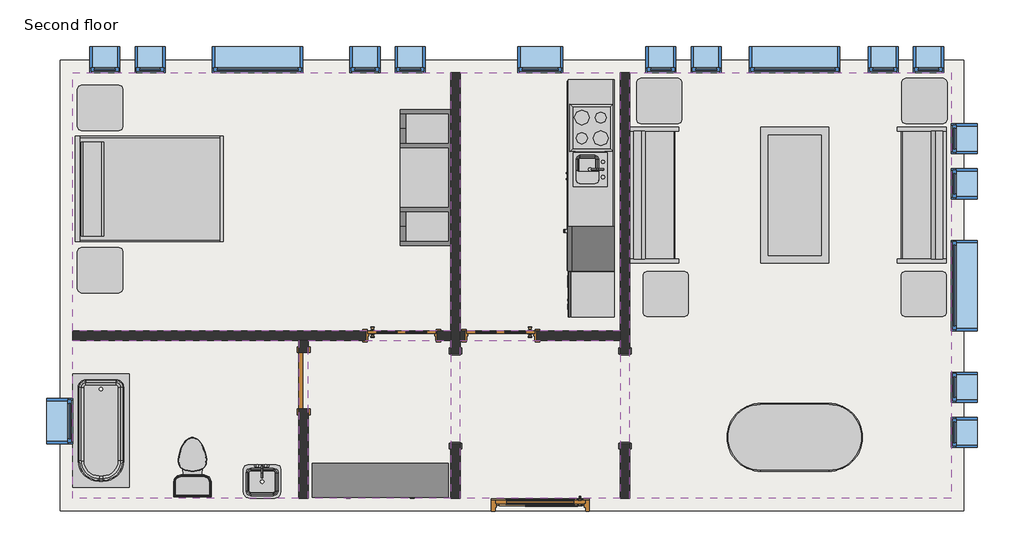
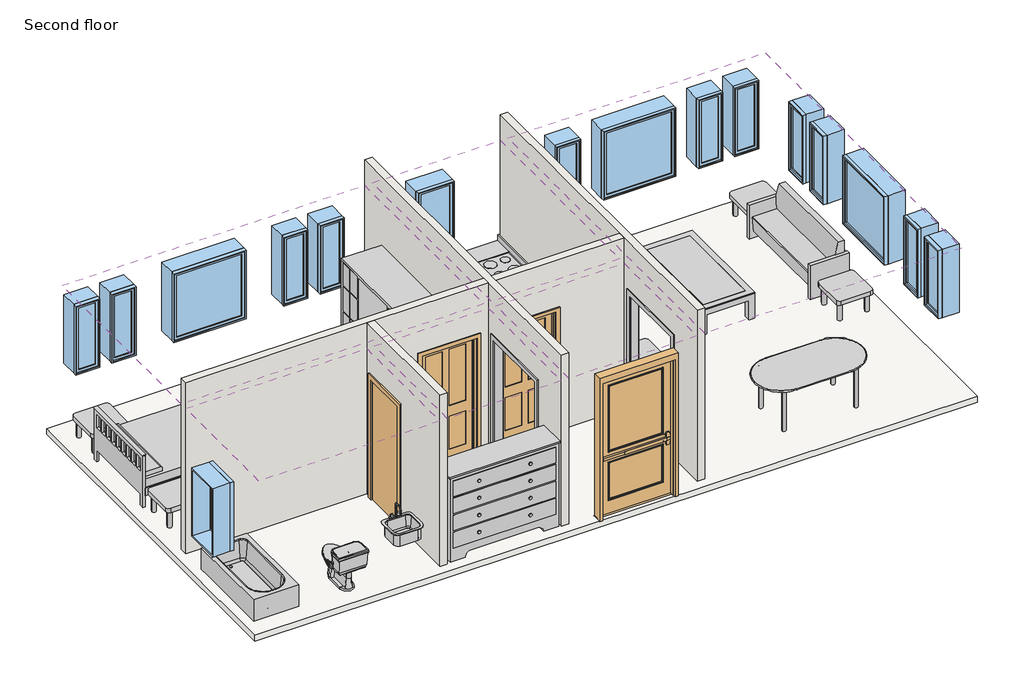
# One storey, incomplete: 17 windows, 14 furniture elements, 6 coverings, 6 proxies, 4 doors, 4 flow terminals, 4 walls, 1 slab.
"""IFC4 building model written with IfcOpenShell, lengths in millimetres."""

from ifc_helpers import new_model, si_unit, frame, origin, place, context, project, spatial, polyline, outline, extrude, faceted_brep, transform, mapped, element, save
from components import proxy_a6faaae8, proxy_45b28599, proxy_2d72b8be, proxy_f44482cc, proxy_d58c73d0, proxy_c523a7b7, door_734823c0, door_3a280f7b, door_48307b55, door_4d6c7550, flow_terminal_871c2e40, flow_terminal_62a433f7, toilet_domestic_3d_toilet_domestic_3d_f7549cf7, toilet_domestic_3d_toilet_domestic_3d_183bbd19, tub_rectangular_3d_tub_rectangular_3d_c56944d8, furniture_096e7f55, furniture_b11095bc, furniture_7c473f12, furniture_cf0b6580, furniture_a4ffab56, furniture_4aa42607, furniture_cd93a443, furniture_2c34a4f9, furniture_3a588284, furniture_1befe2a2, window_da97879f, window_d61ef850, window_60baf983, window_6eb97611

model = new_model("IFC4")

# Units and contexts
model_context = context("Model", 3, world=origin())
ifc_project = project(units=[si_unit("LENGTHUNIT", "METRE", prefix="MILLI")], contexts=[model_context])

# Site, building, storey
site = spatial("IfcSite", under=ifc_project)
building = spatial("IfcBuilding", under=site)
storey = spatial("IfcBuildingStorey", under=building, Name="Second floor", Elevation=3048.0)

# Proxies
placement = place(None, origin())
proxy_shape = proxy_a6faaae8(model_context)
element("IfcBuildingElementProxy", 1, Name="Cook Top-4 Unit2 : 22\" x 20\"", ObjectType="Cook Top-4 Unit2 : 22\" x 20\"", at=placement, inside=storey, context=model_context, shape_type="MappedRepresentation", body=[
    mapped(proxy_shape, transform((-9031.7273953, 6866.0370415, 3049.7), x_axis=(0.0, 1.0, 0.0), y_axis=(-1.0, 0.0, 0.0), z_axis=(0.0, 0.0, 1.0))),
])
proxy_2_shape = proxy_45b28599(model_context)
element("IfcBuildingElementProxy", 2, Name="Dishwasher : 24\" x 24\" x 34\"", ObjectType="Dishwasher : 24\" x 24\" x 34\"", at=placement, inside=storey, context=model_context, shape_type="MappedRepresentation", body=[
    mapped(proxy_2_shape, transform((-9291.8269601, 5000.45451, 3048.0), x_axis=(0.0, -1.0, 0.0), y_axis=(1.0, 0.0, 0.0), z_axis=(0.0, 0.0, 1.0))),
])
proxy_3_shape = proxy_2d72b8be(model_context)
element("IfcBuildingElementProxy", 3, Name="Kitchenette - Medium : 8'6\"", ObjectType="Kitchenette - Medium : 8'6\"", at=placement, inside=storey, context=model_context, shape_type="MappedRepresentation", body=[
    mapped(proxy_3_shape, transform((-8720.5773953, 6237.0747464, 3048.0), x_axis=(0.0, -1.0, 0.0), y_axis=(1.0, 0.0, 0.0), z_axis=(0.0, 0.0, 1.0))),
])
proxy_4_shape = proxy_f44482cc(model_context)
element("IfcBuildingElementProxy", 4, Name="Passage Opening-Cased : 48\" x 84\"", ObjectType="Passage Opening-Cased : 48\" x 84\"", at=placement, inside=storey, context=model_context, shape_type="MappedRepresentation", body=[
    mapped(proxy_4_shape, transform((-8577.1844712, 3224.0452741, 3048.0), x_axis=(0.0, 1.0, 0.0), y_axis=(-1.0, 0.0, 0.0), z_axis=(0.0, 0.0, 1.0))),
])
proxy_5_shape = proxy_d58c73d0(model_context)
element("IfcBuildingElementProxy", 5, Name="Passage Opening-Cased : 48\" x 84\"", ObjectType="Passage Opening-Cased : 48\" x 84\"", at=placement, inside=storey, context=model_context, shape_type="MappedRepresentation", body=[
    mapped(proxy_5_shape, transform((-10863.1844712, 3224.0452741, 3048.0), x_axis=(0.0, 1.0, 0.0), y_axis=(-1.0, 0.0, 0.0), z_axis=(0.0, 0.0, 1.0))),
])
proxy_6_shape = proxy_c523a7b7(model_context)
element("IfcBuildingElementProxy", 6, Name="Refrigerator : 24\" x 25\" LH", ObjectType="Refrigerator : 24\" x 25\" LH", at=placement, inside=storey, context=model_context, shape_type="MappedRepresentation", body=[
    mapped(proxy_6_shape, transform((-9020.2263668, 5234.0870415, 3048.0), x_axis=(0.0, -1.0, 0.0), y_axis=(1.0, 0.0, 0.0), z_axis=(0.0, 0.0, 1.0))),
])

# Coverings
element("IfcCovering", 7, ObjectType="GWB on Mtl. Stud", at=placement, inside=storey, context=model_context, shape_type="SweptSolid", body=[
    extrude(outline(polyline([(-16020.9719712, 7611.6441174), (-10926.6844712, 7611.6441174), (-10926.6844712, 4128.6691174), (-16020.9719712, 4128.6691174), (-16020.9719712, 7611.6441174)])), frame((0.0, 0.0, 5638.8), z_axis=(0.0, 0.0, 1.0), x_axis=(1.0, 0.0, 0.0)), (0.0, 0.0, 1.0), 107.95),
])
element("IfcCovering", 8, ObjectType="GWB on Mtl. Stud", at=placement, inside=storey, context=model_context, shape_type="SweptSolid", body=[
    extrude(outline(polyline([(-10799.6844712, 4128.6691174), (-10799.6844712, 7611.6441174), (-8640.6844712, 7611.6441174), (-8640.6844712, 4128.6691174), (-10799.6844712, 4128.6691174)])), frame((0.0, 0.0, 5638.8), z_axis=(0.0, 0.0, 1.0), x_axis=(1.0, 0.0, 0.0)), (0.0, 0.0, 1.0), 107.95),
])
element("IfcCovering", 9, ObjectType="GWB on Mtl. Stud", at=placement, inside=storey, context=model_context, shape_type="SweptSolid", body=[
    extrude(outline(polyline([(-8513.6844712, 1868.0691174), (-8513.6844712, 7611.6441174), (-4181.3969712, 7611.6441174), (-4181.3969712, 1868.0691174), (-8513.6844712, 1868.0691174)])), frame((0.0, 0.0, 5638.8), z_axis=(0.0, 0.0, 1.0), x_axis=(1.0, 0.0, 0.0)), (0.0, 0.0, 1.0), 107.95),
])
element("IfcCovering", 10, ObjectType="GWB on Mtl. Stud", at=placement, inside=storey, context=model_context, shape_type="SweptSolid", body=[
    extrude(outline(polyline([(-8640.6844712, 1868.0691174), (-10799.6844712, 1868.0691174), (-10799.6844712, 4001.6691174), (-8640.6844712, 4001.6691174), (-8640.6844712, 1868.0691174)])), frame((0.0, 0.0, 5638.8), z_axis=(0.0, 0.0, 1.0), x_axis=(1.0, 0.0, 0.0)), (0.0, 0.0, 1.0), 107.95),
])
element("IfcCovering", 11, ObjectType="GWB on Mtl. Stud", at=placement, inside=storey, context=model_context, shape_type="SweptSolid", body=[
    extrude(outline(polyline([(-10926.6844712, 1868.0691174), (-12845.9719712, 1868.0691174), (-12845.9719712, 4001.6691174), (-10926.6844712, 4001.6691174), (-10926.6844712, 1868.0691174)])), frame((0.0, 0.0, 5638.8), z_axis=(0.0, 0.0, 1.0), x_axis=(1.0, 0.0, 0.0)), (0.0, 0.0, 1.0), 107.95),
])
element("IfcCovering", 12, ObjectType="GWB on Mtl. Stud", at=placement, inside=storey, context=model_context, shape_type="SweptSolid", body=[
    extrude(outline(polyline([(-12972.9719712, 4001.6691174), (-12972.9719712, 1868.0691174), (-16020.9719712, 1868.0691174), (-16020.9719712, 4001.6691174), (-12972.9719712, 4001.6691174)])), frame((0.0, 0.0, 5638.8), z_axis=(0.0, 0.0, 1.0), x_axis=(1.0, 0.0, 0.0)), (0.0, 0.0, 1.0), 107.95),
])

# Doors
door_shape = door_734823c0(model_context)
element("IfcDoor", 13, ObjectType="Door-Exterior-Single-Two_Lite : 48\" x 96\"", at=placement, inside=storey, context=model_context, shape_type="MappedRepresentation", body=[
    mapped(door_shape, transform((-9720.1844712, 1685.5066174, 3048.0), x_axis=(-1.0, 0.0, 0.0), y_axis=(0.0, -1.0, 0.0), z_axis=(0.0, 0.0, 1.0))),
])
door_2_shape = door_3a280f7b(model_context)
element("IfcDoor", 14, ObjectType="Door-Interior-Single-4_Panel-Wood : 36\" x 84\"", at=placement, inside=storey, context=model_context, shape_type="MappedRepresentation", body=[
    mapped(door_2_shape, transform((-10253.5844712, 4068.3441174, 3048.0), x_axis=(-1.0, 0.0, 0.0), y_axis=(0.0, -1.0, 0.0), z_axis=(0.0, 0.0, 1.0))),
])
door_3_shape = door_48307b55(model_context)
element("IfcDoor", 15, ObjectType="Door-Interior-Single-4_Panel-Wood : 36\" x 84\"", at=placement, inside=storey, context=model_context, shape_type="MappedRepresentation", body=[
    mapped(door_3_shape, transform((-11588.6719712, 4068.3441174, 3048.0), x_axis=(1.0, 0.0, 0.0), y_axis=(0.0, 1.0, 0.0), z_axis=(0.0, 0.0, 1.0))),
])
door_4_shape = door_4d6c7550(model_context)
element("IfcDoor", 16, ObjectType="Single-Flush : 30\" x 84\"", at=placement, inside=storey, context=model_context, shape_type="MappedRepresentation", body=[
    mapped(door_4_shape, transform((-12909.4719712, 3455.5691174, 3048.0), x_axis=(0.0, 1.0, 0.0), y_axis=(-1.0, 0.0, 0.0), z_axis=(0.0, 0.0, 1.0))),
])

# Flow terminals
flow_terminal_shape = flow_terminal_871c2e40(model_context)
element("IfcFlowTerminal", 17, ObjectType="Sink Kitchen-Island : 18\" x 18\"", at=placement, inside=storey, context=model_context, shape_type="MappedRepresentation", body=[
    mapped(flow_terminal_shape, transform((-9048.7582992, 6321.1277059, 3035.3), x_axis=(0.0, -1.0, 0.0), y_axis=(1.0, 0.0, 0.0), z_axis=(0.0, 0.0, 1.0))),
])
flow_terminal_2_shape = flow_terminal_62a433f7(model_context)
element("IfcFlowTerminal", 18, ObjectType="Sink Vanity-Square : 20\" x 18\"", at=placement, inside=storey, context=model_context, shape_type="MappedRepresentation", body=[
    mapped(flow_terminal_2_shape, transform((-13483.9612118, 2145.1237163, 3048.0), x_axis=(1.0, 0.0, 0.0), y_axis=(0.0, 1.0, 0.0), z_axis=(0.0, 0.0, 1.0))),
])
toilet_domestic_3d_toilet_domestic_3d_shape = toilet_domestic_3d_toilet_domestic_3d_f7549cf7(model_context)
toilet_domestic_3d_toilet_domestic_3d_2_shape = toilet_domestic_3d_toilet_domestic_3d_183bbd19(model_context)
element("IfcFlowTerminal", 19, ObjectType="Toilet-Domestic-3D : Toilet-Domestic-3D", at=placement, inside=storey, context=model_context, shape_type="MappedRepresentation", body=[
    mapped(toilet_domestic_3d_toilet_domestic_3d_shape, transform((-14408.0719712, 2388.7691174, 3048.0), x_axis=(-1.0, 0.0, 0.0), y_axis=(0.0, -1.0, 0.0), z_axis=(0.0, 0.0, 1.0))),
    mapped(toilet_domestic_3d_toilet_domestic_3d_2_shape, transform((-14408.0719712, 2388.7691174, 3048.0), x_axis=(-1.0, 0.0, 0.0), y_axis=(0.0, -1.0, 0.0), z_axis=(0.0, 0.0, 1.0))),
])
tub_rectangular_3d_tub_rectangular_3d_shape = tub_rectangular_3d_tub_rectangular_3d_c56944d8(model_context)
element("IfcFlowTerminal", 20, ObjectType="Tub-Rectangular-3D : Tub-Rectangular-3D", at=placement, inside=storey, context=model_context, shape_type="MappedRepresentation", body=[
    mapped(tub_rectangular_3d_tub_rectangular_3d_shape, transform((-16197.1844712, 2435.4536487, 3048.0), x_axis=(0.0, -1.0, 0.0), y_axis=(1.0, 0.0, 0.0), z_axis=(0.0, 0.0, 1.0))),
])

# Furniture
furniture_shape = furniture_096e7f55(model_context)
element("IfcFurniture", 21, ObjectType="Bed-Shaker : Double 56\" x 78\"", at=placement, inside=storey, context=model_context, shape_type="MappedRepresentation", body=[
    mapped(furniture_shape, transform((-15975.8112951, 6061.1004868, 3048.0), x_axis=(0.0, 1.0, 0.0), y_axis=(-1.0, 0.0, 0.0), z_axis=(0.0, 0.0, 1.0))),
])
furniture_2_shape = furniture_b11095bc(model_context)
element("IfcFurniture", 22, ObjectType="Counter Top w Sink Hole : 24\" Depth", at=placement, inside=storey, context=model_context, shape_type="MappedRepresentation", body=[
    mapped(furniture_2_shape, transform((-8720.5773953, 6313.2747464, 3035.3), x_axis=(0.0, -1.0, 0.0), y_axis=(1.0, 0.0, 0.0), z_axis=(0.0, 0.0, 1.0))),
])
furniture_3_shape = furniture_7c473f12(model_context)
element("IfcFurniture", 23, ObjectType="Dresser : 72\" x 60\" x 18\"", at=placement, inside=storey, context=model_context, shape_type="MappedRepresentation", body=[
    mapped(furniture_3_shape, transform((-11608.4037114, 2478.8820715, 3048.0), x_axis=(1.0, 0.0, 0.0), y_axis=(0.0, 1.0, 0.0), z_axis=(0.0, 0.0, 1.0))),
])
furniture_4_shape = furniture_cf0b6580(model_context)
element("IfcFurniture", 24, ObjectType="Entertainment Center : 72\" x 72\" x 24\"", at=placement, inside=storey, context=model_context, shape_type="MappedRepresentation", body=[
    mapped(furniture_4_shape, transform((-10825.0844712, 6196.8069525, 3048.0), x_axis=(0.0, -1.0, 0.0), y_axis=(1.0, 0.0, 0.0), z_axis=(0.0, 0.0, 1.0))),
])
furniture_5_shape = furniture_a4ffab56(model_context)
element("IfcFurniture", 25, ObjectType="Sofa : 72\"", at=placement, inside=storey, context=model_context, shape_type="MappedRepresentation", body=[
    mapped(furniture_5_shape, transform((-8037.3303728, 5888.6861256, 3048.0), x_axis=(0.0, 1.0, 0.0), y_axis=(-1.0, 0.0, 0.0), z_axis=(0.0, 0.0, 1.0))),
])
furniture_6_shape = furniture_4aa42607(model_context)
element("IfcFurniture", 26, ObjectType="Sofa : 72\"", at=placement, inside=storey, context=model_context, shape_type="MappedRepresentation", body=[
    mapped(furniture_6_shape, transform((-4722.8385696, 5888.6861256, 3048.0), x_axis=(0.0, 1.0, 0.0), y_axis=(-1.0, 0.0, 0.0), z_axis=(0.0, 0.0, 1.0))),
])
furniture_7_shape = furniture_cd93a443(model_context)
element("IfcFurniture", 27, ObjectType="Table-Coffee : 36\" x 72\" x 18\"", at=placement, inside=storey, context=model_context, shape_type="MappedRepresentation", body=[
    mapped(furniture_7_shape, transform((-6386.395549, 5977.3223841, 3048.0), x_axis=(0.0, -1.0, 0.0), y_axis=(1.0, 0.0, 0.0), z_axis=(0.0, 0.0, 1.0))),
])
furniture_8_shape = furniture_2c34a4f9(model_context)
element("IfcFurniture", 28, ObjectType="Table-Dining Oval : 36\" x 72\"", at=placement, inside=storey, context=model_context, shape_type="MappedRepresentation", body=[
    mapped(furniture_8_shape, transform((-5889.3647991, 3051.6674781, 3048.0), x_axis=(1.0, 0.0, 0.0), y_axis=(0.0, 1.0, 0.0), z_axis=(0.0, 0.0, 1.0))),
])
furniture_9_shape = furniture_3a588284(model_context)
element("IfcFurniture", 29, ObjectType="Table-End : 24\" x 24\"", at=placement, inside=storey, context=model_context, shape_type="MappedRepresentation", body=[
    mapped(furniture_9_shape, transform((-8424.0054177, 7076.6566174, 3048.0), x_axis=(1.0, 0.0, 0.0), y_axis=(0.0, 1.0, 0.0), z_axis=(0.0, 0.0, 1.0))),
])
element("IfcFurniture", 30, ObjectType="Table-End : 24\" x 24\"", at=placement, inside=storey, context=model_context, shape_type="MappedRepresentation", body=[
    mapped(furniture_9_shape, transform((-8338.5433691, 4473.0178252, 3048.0), x_axis=(1.0, 0.0, 0.0), y_axis=(0.0, 1.0, 0.0), z_axis=(0.0, 0.0, 1.0))),
])
element("IfcFurniture", 31, ObjectType="Table-End : 24\" x 24\"", at=placement, inside=storey, context=model_context, shape_type="MappedRepresentation", body=[
    mapped(furniture_9_shape, transform((-15961.2056015, 4795.4191174, 3048.0), x_axis=(1.0, 0.0, 0.0), y_axis=(0.0, 1.0, 0.0), z_axis=(0.0, 0.0, 1.0))),
])
furniture_10_shape = furniture_1befe2a2(model_context)
element("IfcFurniture", 32, ObjectType="Table-End : 24\" x 24\"", at=placement, inside=storey, context=model_context, shape_type="MappedRepresentation", body=[
    mapped(furniture_10_shape, transform((-4234.5635246, 7076.6566174, 3048.0), x_axis=(-1.0, 0.0, 0.0), y_axis=(0.0, -1.0, 0.0), z_axis=(0.0, 0.0, 1.0))),
])
element("IfcFurniture", 33, ObjectType="Table-End : 24\" x 24\"", at=placement, inside=storey, context=model_context, shape_type="MappedRepresentation", body=[
    mapped(furniture_10_shape, transform((-4243.8255733, 4473.0178252, 3048.0), x_axis=(-1.0, 0.0, 0.0), y_axis=(0.0, -1.0, 0.0), z_axis=(0.0, 0.0, 1.0))),
])
element("IfcFurniture", 34, ObjectType="Table-End : 24\" x 24\"", at=placement, inside=storey, context=model_context, shape_type="MappedRepresentation", body=[
    mapped(furniture_10_shape, transform((-15961.2056015, 7288.6818561, 3048.0), x_axis=(1.0, 0.0, 0.0), y_axis=(0.0, 1.0, 0.0), z_axis=(0.0, 0.0, 1.0))),
])

# Slab
element("IfcSlab", 35, ObjectType="LW Concrete on Metal Deck", at=placement, inside=storey, context=model_context, shape_type="SweptSolid", body=[
    extrude(outline(polyline([(-4016.2969712, 7776.7441174), (-4016.2969712, 1702.9691174), (-16186.0719712, 1702.9691174), (-16186.0719712, 7776.7441174), (-4016.2969712, 7776.7441174)])), frame((0.0, 0.0, 2943.225), z_axis=(0.0, 0.0, 1.0), x_axis=(1.0, 0.0, 0.0)), (0.0, 0.0, 1.0), 104.775),
])

# Walls
element("IfcWall", 36, ObjectType="Interior - 5\" Partition (2-hr)", at=placement, inside=storey, context=model_context, shape_type="Brep", body=[
    faceted_brep([(-8640.6844712, 7611.6441174, 3048.0), (-8640.6844712, 4128.6691174, 3048.0), (-8640.6844712, 4001.6691174, 3048.0), (-8640.6844712, 3825.4566174, 3048.0), (-8640.6844712, 3825.4566174, 5181.6), (-8640.6844712, 2606.2566174, 5181.6), (-8640.6844712, 2606.2566174, 3048.0), (-8640.6844712, 1868.0691174, 3048.0), (-8640.6844712, 1868.0691174, 6096.0), (-8640.6844712, 4001.6691174, 6096.0), (-8640.6844712, 4128.6691174, 6096.0), (-8640.6844712, 7611.6441174, 6096.0), (-8513.6844712, 3825.4566174, 5181.6), (-8513.6844712, 3825.4566174, 3048.0), (-8513.6844712, 7611.6441174, 3048.0), (-8513.6844712, 7611.6441174, 6096.0), (-8513.6844712, 1868.0691174, 6096.0), (-8513.6844712, 1868.0691174, 3048.0), (-8513.6844712, 2606.2566174, 3048.0), (-8513.6844712, 2606.2566174, 5181.6)], [[[0, 1, 2, 3, 4, 5, 6, 7, 8, 9, 10, 11]], [[12, 13, 14, 15, 16, 17, 18, 19]], [[18, 17, 7, 6]], [[14, 13, 3, 2, 1, 0]], [[11, 10, 9, 8, 16, 15]], [[6, 5, 19, 18]], [[4, 3, 13, 12]], [[5, 4, 12, 19]], [[0, 11, 15, 14]], [[8, 7, 17, 16]]]),
])
element("IfcWall", 37, ObjectType="Interior - 5\" Partition (2-hr)", at=placement, inside=storey, context=model_context, shape_type="Brep", body=[
    faceted_brep([(-10926.6844712, 7611.6441174, 3048.0), (-10926.6844712, 4128.6691174, 3048.0), (-10926.6844712, 4001.6691174, 3048.0), (-10926.6844712, 3825.4566174, 3048.0), (-10926.6844712, 3825.4566174, 5181.6), (-10926.6844712, 2606.2566174, 5181.6), (-10926.6844712, 2606.2566174, 3048.0), (-10926.6844712, 1868.0691174, 3048.0), (-10926.6844712, 1868.0691174, 6096.0), (-10926.6844712, 4001.6691174, 6096.0), (-10926.6844712, 4128.6691174, 6096.0), (-10926.6844712, 7611.6441174, 6096.0), (-10799.6844712, 3825.4566174, 5181.6), (-10799.6844712, 3825.4566174, 3048.0), (-10799.6844712, 4001.6691174, 3048.0), (-10799.6844712, 4128.6691174, 3048.0), (-10799.6844712, 7611.6441174, 3048.0), (-10799.6844712, 7611.6441174, 6096.0), (-10799.6844712, 4128.6691174, 6096.0), (-10799.6844712, 4001.6691174, 6096.0), (-10799.6844712, 1868.0691174, 6096.0), (-10799.6844712, 1868.0691174, 3048.0), (-10799.6844712, 2606.2566174, 3048.0), (-10799.6844712, 2606.2566174, 5181.6)], [[[0, 1, 2, 3, 4, 5, 6, 7, 8, 9, 10, 11]], [[12, 13, 14, 15, 16, 17, 18, 19, 20, 21, 22, 23]], [[22, 21, 7, 6]], [[16, 15, 14, 13, 3, 2, 1, 0]], [[11, 10, 9, 8, 20, 19, 18, 17]], [[6, 5, 23, 22]], [[4, 3, 13, 12]], [[5, 4, 12, 23]], [[0, 11, 17, 16]], [[8, 7, 21, 20]]]),
])
element("IfcWall", 38, ObjectType="Interior - 5\" Partition (2-hr)", at=placement, inside=storey, context=model_context, shape_type="Brep", body=[
    faceted_brep([(-8640.6844712, 4001.6691174, 3048.0), (-8640.6844712, 4001.6691174, 6096.0), (-10799.6844712, 4001.6691174, 6096.0), (-10799.6844712, 4001.6691174, 3048.0), (-10736.1844712, 4001.6691174, 3048.0), (-10736.1844712, 4001.6691174, 5207.0), (-9770.9844712, 4001.6691174, 5207.0), (-9770.9844712, 4001.6691174, 3048.0), (-8640.6844712, 4128.6691174, 6096.0), (-8640.6844712, 4128.6691174, 3048.0), (-9770.9844712, 4128.6691174, 3048.0), (-9770.9844712, 4128.6691174, 5207.0), (-10736.1844712, 4128.6691174, 5207.0), (-10736.1844712, 4128.6691174, 3048.0), (-10799.6844712, 4128.6691174, 3048.0), (-10799.6844712, 4128.6691174, 6096.0)], [[[0, 1, 2, 3, 4, 5, 6, 7]], [[8, 9, 10, 11, 12, 13, 14, 15]], [[9, 0, 7, 10]], [[13, 4, 3, 14]], [[1, 8, 15, 2]], [[1, 0, 9, 8]], [[3, 2, 15, 14]], [[5, 4, 13, 12]], [[6, 5, 12, 11]], [[7, 6, 11, 10]]]),
    faceted_brep([(-16020.9719712, 4001.6691174, 3048.0), (-12972.9719712, 4001.6691174, 3048.0), (-12845.9719712, 4001.6691174, 3048.0), (-12071.2719712, 4001.6691174, 3048.0), (-12071.2719712, 4001.6691174, 5207.0), (-11106.0719712, 4001.6691174, 5207.0), (-11106.0719712, 4001.6691174, 3048.0), (-10926.6844712, 4001.6691174, 3048.0), (-10926.6844712, 4001.6691174, 6096.0), (-12845.9719712, 4001.6691174, 6096.0), (-12972.9719712, 4001.6691174, 6096.0), (-16020.9719712, 4001.6691174, 6096.0), (-12071.2719712, 4128.6691174, 3048.0), (-16020.9719712, 4128.6691174, 3048.0), (-16020.9719712, 4128.6691174, 6096.0), (-10926.6844712, 4128.6691174, 6096.0), (-10926.6844712, 4128.6691174, 3048.0), (-11106.0719712, 4128.6691174, 3048.0), (-11106.0719712, 4128.6691174, 5207.0), (-12071.2719712, 4128.6691174, 5207.0)], [[[0, 1, 2, 3, 4, 5, 6, 7, 8, 9, 10, 11]], [[12, 13, 14, 15, 16, 17, 18, 19]], [[6, 17, 16, 7]], [[3, 2, 1, 0, 13, 12]], [[14, 11, 10, 9, 8, 15]], [[8, 7, 16, 15]], [[5, 18, 17, 6]], [[18, 5, 4, 19]], [[19, 4, 3, 12]], [[0, 11, 14, 13]]]),
])
element("IfcWall", 39, ObjectType="Interior - 5\" Partition (2-hr)", at=placement, inside=storey, context=model_context, shape_type="SweptSolid", body=[
    extrude(outline(polyline([(4001.6691174, 3048.0), (3836.5691174, 3048.0), (3836.5691174, 5181.6), (3074.5691174, 5181.6), (3074.5691174, 3048.0), (1868.0691174, 3048.0), (1868.0691174, 6096.0), (4001.6691174, 6096.0), (4001.6691174, 3048.0)])), frame((-12972.9719712, 0.0, 0.0), z_axis=(1.0, 0.0, 0.0), x_axis=(0.0, 1.0, 0.0)), (0.0, 0.0, 1.0), 127.0),
])

# Windows
window_shape = window_da97879f(model_context)
element("IfcWindow", 40, ObjectType="Fixed : 16\" x 48\"", at=placement, inside=storey, context=model_context, shape_type="MappedRepresentation", body=[
    mapped(window_shape, transform((-15625.6844712, 7787.8566174, 3048.0), x_axis=(-1.0, 0.0, 0.0), y_axis=(0.0, -1.0, 0.0), z_axis=(0.0, 0.0, 1.0))),
])
element("IfcWindow", 41, ObjectType="Fixed : 16\" x 48\"", at=placement, inside=storey, context=model_context, shape_type="MappedRepresentation", body=[
    mapped(window_shape, transform((-15016.0844712, 7787.8566174, 3048.0), x_axis=(-1.0, 0.0, 0.0), y_axis=(0.0, -1.0, 0.0), z_axis=(0.0, 0.0, 1.0))),
])
element("IfcWindow", 42, ObjectType="Fixed : 16\" x 48\"", at=placement, inside=storey, context=model_context, shape_type="MappedRepresentation", body=[
    mapped(window_shape, transform((-8132.6844712, 7787.8566174, 3048.0), x_axis=(-1.0, 0.0, 0.0), y_axis=(0.0, -1.0, 0.0), z_axis=(0.0, 0.0, 1.0))),
])
element("IfcWindow", 43, ObjectType="Fixed : 16\" x 48\"", at=placement, inside=storey, context=model_context, shape_type="MappedRepresentation", body=[
    mapped(window_shape, transform((-7523.0844712, 7787.8566174, 3048.0), x_axis=(-1.0, 0.0, 0.0), y_axis=(0.0, -1.0, 0.0), z_axis=(0.0, 0.0, 1.0))),
])
element("IfcWindow", 44, ObjectType="Fixed : 16\" x 48\"", at=placement, inside=storey, context=model_context, shape_type="MappedRepresentation", body=[
    mapped(window_shape, transform((-4005.1844712, 6759.1566174, 3048.0), x_axis=(0.0, 1.0, 0.0), y_axis=(-1.0, 0.0, 0.0), z_axis=(0.0, 0.0, 1.0))),
])
element("IfcWindow", 45, ObjectType="Fixed : 16\" x 48\"", at=placement, inside=storey, context=model_context, shape_type="MappedRepresentation", body=[
    mapped(window_shape, transform((-4005.1844712, 6149.5566174, 3048.0), x_axis=(0.0, 1.0, 0.0), y_axis=(-1.0, 0.0, 0.0), z_axis=(0.0, 0.0, 1.0))),
])
window_2_shape = window_d61ef850(model_context)
element("IfcWindow", 46, ObjectType="Fixed : 16\" x 48\"", at=placement, inside=storey, context=model_context, shape_type="MappedRepresentation", body=[
    mapped(window_2_shape, transform((-11434.6844712, 7787.8566174, 3048.0), x_axis=(1.0, 0.0, 0.0), y_axis=(0.0, 1.0, 0.0), z_axis=(0.0, 0.0, 1.0))),
])
element("IfcWindow", 47, ObjectType="Fixed : 16\" x 48\"", at=placement, inside=storey, context=model_context, shape_type="MappedRepresentation", body=[
    mapped(window_2_shape, transform((-12044.2844712, 7787.8566174, 3048.0), x_axis=(1.0, 0.0, 0.0), y_axis=(0.0, 1.0, 0.0), z_axis=(0.0, 0.0, 1.0))),
])
element("IfcWindow", 48, ObjectType="Fixed : 16\" x 48\"", at=placement, inside=storey, context=model_context, shape_type="MappedRepresentation", body=[
    mapped(window_2_shape, transform((-4449.6844712, 7787.8566174, 3048.0), x_axis=(1.0, 0.0, 0.0), y_axis=(0.0, 1.0, 0.0), z_axis=(0.0, 0.0, 1.0))),
])
element("IfcWindow", 49, ObjectType="Fixed : 16\" x 48\"", at=placement, inside=storey, context=model_context, shape_type="MappedRepresentation", body=[
    mapped(window_2_shape, transform((-5059.2844712, 7787.8566174, 3048.0), x_axis=(1.0, 0.0, 0.0), y_axis=(0.0, 1.0, 0.0), z_axis=(0.0, 0.0, 1.0))),
])
element("IfcWindow", 50, ObjectType="Fixed : 16\" x 48\"", at=placement, inside=storey, context=model_context, shape_type="MappedRepresentation", body=[
    mapped(window_2_shape, transform((-4005.1844712, 2720.5566174, 3048.0), x_axis=(0.0, -1.0, 0.0), y_axis=(1.0, 0.0, 0.0), z_axis=(0.0, 0.0, 1.0))),
])
element("IfcWindow", 51, ObjectType="Fixed : 16\" x 48\"", at=placement, inside=storey, context=model_context, shape_type="MappedRepresentation", body=[
    mapped(window_2_shape, transform((-4005.1844712, 3330.1566174, 3048.0), x_axis=(0.0, -1.0, 0.0), y_axis=(1.0, 0.0, 0.0), z_axis=(0.0, 0.0, 1.0))),
])
window_3_shape = window_60baf983(model_context)
element("IfcWindow", 52, ObjectType="Fixed : 24\" x 48\"", at=placement, inside=storey, context=model_context, shape_type="MappedRepresentation", body=[
    mapped(window_3_shape, transform((-9758.2844712, 7787.8566174, 3048.0), x_axis=(-1.0, 0.0, 0.0), y_axis=(0.0, -1.0, 0.0), z_axis=(0.0, 0.0, 1.0))),
])
element("IfcWindow", 53, ObjectType="Fixed : 24\" x 48\"", at=placement, inside=storey, context=model_context, shape_type="MappedRepresentation", body=[
    mapped(window_3_shape, transform((-16197.1844712, 2872.9566174, 3048.0), x_axis=(0.0, -1.0, 0.0), y_axis=(1.0, 0.0, 0.0), z_axis=(0.0, 0.0, 1.0))),
])
window_4_shape = window_6eb97611(model_context)
element("IfcWindow", 54, ObjectType="Fixed : 48\" x 48\"", at=placement, inside=storey, context=model_context, shape_type="MappedRepresentation", body=[
    mapped(window_4_shape, transform((-13568.2844712, 7787.8566174, 3048.0), x_axis=(-1.0, 0.0, 0.0), y_axis=(0.0, -1.0, 0.0), z_axis=(0.0, 0.0, 1.0))),
])
element("IfcWindow", 55, ObjectType="Fixed : 48\" x 48\"", at=placement, inside=storey, context=model_context, shape_type="MappedRepresentation", body=[
    mapped(window_4_shape, transform((-6329.2844712, 7787.8566174, 3048.0), x_axis=(-1.0, 0.0, 0.0), y_axis=(0.0, -1.0, 0.0), z_axis=(0.0, 0.0, 1.0))),
])
element("IfcWindow", 56, ObjectType="Fixed : 48\" x 48\"", at=placement, inside=storey, context=model_context, shape_type="MappedRepresentation", body=[
    mapped(window_4_shape, transform((-4005.1844712, 4777.9566174, 3048.0), x_axis=(0.0, 1.0, 0.0), y_axis=(-1.0, 0.0, 0.0), z_axis=(0.0, 0.0, 1.0))),
])

save(model, "model.ifc")
